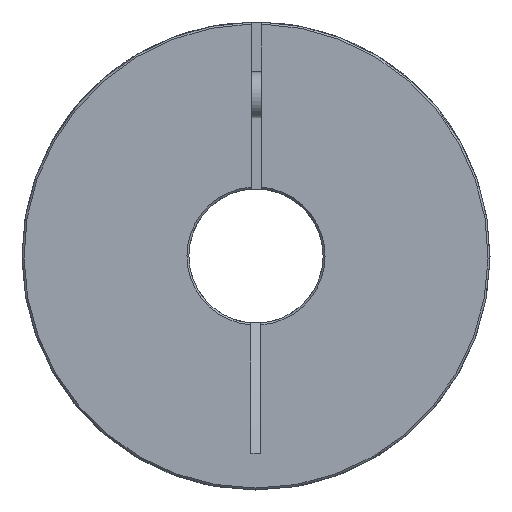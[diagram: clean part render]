
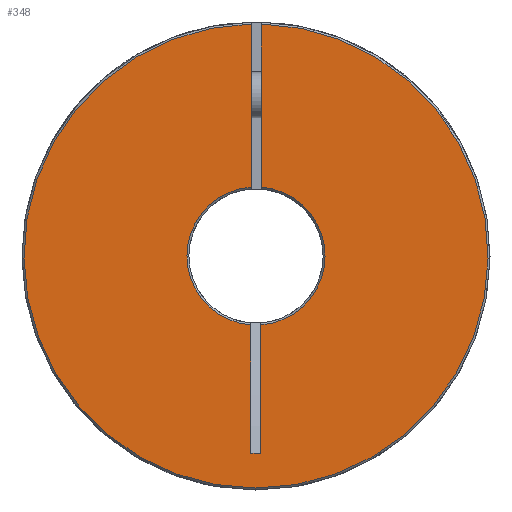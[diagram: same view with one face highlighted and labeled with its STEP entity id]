
A CAD part, left-side view. The second image highlights one B-rep face of the part: STEP entity #348.
In plain terms, the highlighted planar face has unit normal (-1, 0, 0).
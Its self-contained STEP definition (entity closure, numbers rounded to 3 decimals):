
#348 = ADVANCED_FACE( 'NONE', ( #726 ), #727, .F. );
#726 = FACE_OUTER_BOUND( '', #1103, .T. );
#727 = PLANE( '', #1104 );
#1103 = EDGE_LOOP( '', ( #1701, #1702, #1703, #1704, #1705, #1706, #1707, #1708 ) );
#1104 = AXIS2_PLACEMENT_3D( '', #1709, #1710, #1711 );
#1701 = ORIENTED_EDGE( '', *, *, #2038, .T. );
#1702 = ORIENTED_EDGE( '', *, *, #1831, .T. );
#1703 = ORIENTED_EDGE( '', *, *, #1919, .T. );
#1704 = ORIENTED_EDGE( '', *, *, #2041, .T. );
#1705 = ORIENTED_EDGE( '', *, *, #1938, .F. );
#1706 = ORIENTED_EDGE( '', *, *, #1935, .T. );
#1707 = ORIENTED_EDGE( '', *, *, #1885, .F. );
#1708 = ORIENTED_EDGE( '', *, *, #1967, .T. );
#1709 = CARTESIAN_POINT( '', ( 0., 17.5, 0. ) );
#1710 = DIRECTION( '', ( 1., 0., 0. ) );
#1711 = DIRECTION( '', ( 0., 1., 0. ) );
#1831 = EDGE_CURVE( 'NONE', #2075, #2076, #2077, .T. );
#1885 = EDGE_CURVE( 'NONE', #2162, #2163, #2164, .F. );
#1919 = EDGE_CURVE( 'NONE', #2076, #2219, #2220, .T. );
#1935 = EDGE_CURVE( 'NONE', #2245, #2163, #2246, .T. );
#1938 = EDGE_CURVE( 'NONE', #2245, #2249, #2250, .F. );
#1967 = EDGE_CURVE( 'NONE', #2162, #2289, #2291, .T. );
#2038 = EDGE_CURVE( 'NONE', #2289, #2075, #2378, .T. );
#2041 = EDGE_CURVE( 'NONE', #2219, #2249, #2381, .F. );
#2075 = VERTEX_POINT( 'NONE', #2412 );
#2076 = VERTEX_POINT( 'NONE', #2413 );
#2077 = CIRCLE( '', #2414, 18. );
#2162 = VERTEX_POINT( 'NONE', #2692 );
#2163 = VERTEX_POINT( 'NONE', #2693 );
#2164 = LINE( '', #2694, #2695 );
#2219 = VERTEX_POINT( 'NONE', #2766 );
#2220 = LINE( '', #2767, #2768 );
#2245 = VERTEX_POINT( 'NONE', #2798 );
#2246 = CIRCLE( '', #2799, 18. );
#2249 = VERTEX_POINT( 'NONE', #2805 );
#2250 = LINE( '', #2806, #2807 );
#2289 = VERTEX_POINT( 'NONE', #2855 );
#2291 = LINE( '', #2857, #2858 );
#2378 = LINE( '', #2953, #2954 );
#2381 = CIRCLE( '', #2957, 60.5 );
#2412 = CARTESIAN_POINT( '', ( 0., 17.953, 1.3 ) );
#2413 = CARTESIAN_POINT( '', ( 0., -17.953, 1.3 ) );
#2414 = AXIS2_PLACEMENT_3D( '', #2990, #2991, #2992 );
#2692 = CARTESIAN_POINT( '', ( 0., 51.446, -1.3 ) );
#2693 = CARTESIAN_POINT( '', ( 0., 17.953, -1.3 ) );
#2694 = CARTESIAN_POINT( '', ( 0., -13., -1.3 ) );
#2695 = VECTOR( '', #3072, 1000. );
#2766 = CARTESIAN_POINT( '', ( 0., -60.486, 1.3 ) );
#2767 = CARTESIAN_POINT( '', ( 0., 17.5, 1.3 ) );
#2768 = VECTOR( '', #3122, 1000. );
#2798 = CARTESIAN_POINT( '', ( 0., -17.953, -1.3 ) );
#2799 = AXIS2_PLACEMENT_3D( '', #3146, #3147, #3148 );
#2805 = CARTESIAN_POINT( '', ( 0., -60.486, -1.3 ) );
#2806 = CARTESIAN_POINT( '', ( 0., -13., -1.3 ) );
#2807 = VECTOR( '', #3149, 1000. );
#2855 = CARTESIAN_POINT( '', ( 0., 51.446, 1.3 ) );
#2857 = CARTESIAN_POINT( '', ( 0., 51.446, -1.3 ) );
#2858 = VECTOR( '', #3189, 1000. );
#2953 = CARTESIAN_POINT( '', ( 0., 17.5, 1.3 ) );
#2954 = VECTOR( '', #3267, 1000. );
#2957 = AXIS2_PLACEMENT_3D( '', #3268, #3269, #3270 );
#2990 = CARTESIAN_POINT( '', ( 0., 0., 0. ) );
#2991 = DIRECTION( '', ( 1., 0., 0. ) );
#2992 = DIRECTION( '', ( 0., 0., -1. ) );
#3072 = DIRECTION( '', ( 0., 1., 0. ) );
#3122 = DIRECTION( '', ( 0., -1., 0. ) );
#3146 = CARTESIAN_POINT( '', ( 0., 0., 0. ) );
#3147 = DIRECTION( '', ( 1., 0., 0. ) );
#3148 = DIRECTION( '', ( 0., 0., -1. ) );
#3149 = DIRECTION( '', ( 0., 1., 0. ) );
#3189 = DIRECTION( '', ( 0., 0., 1. ) );
#3267 = DIRECTION( '', ( 0., -1., 0. ) );
#3268 = CARTESIAN_POINT( '', ( 0., 0., 0. ) );
#3269 = DIRECTION( '', ( 1., 0., 0. ) );
#3270 = DIRECTION( '', ( 0., 0., -1. ) );
